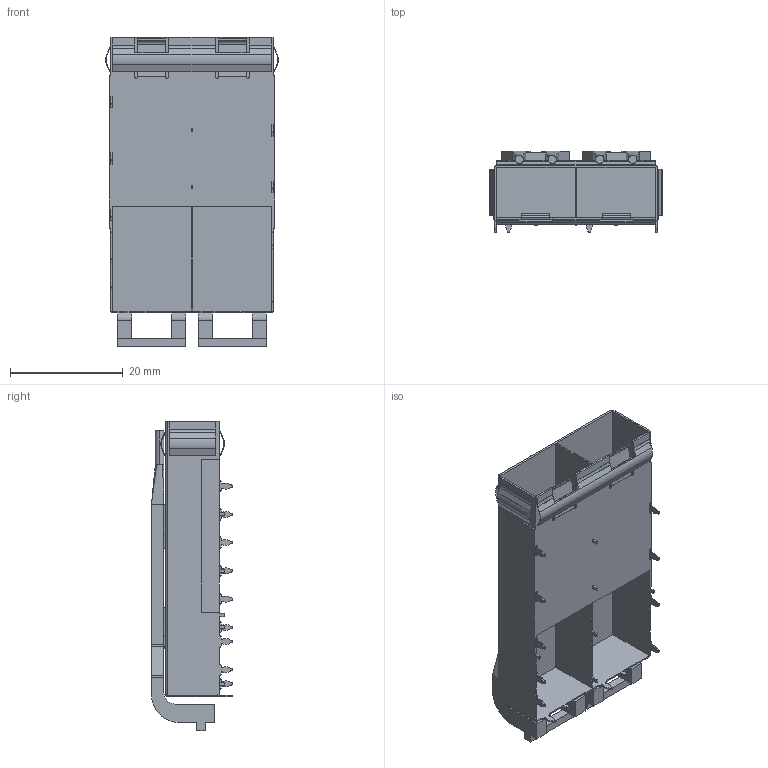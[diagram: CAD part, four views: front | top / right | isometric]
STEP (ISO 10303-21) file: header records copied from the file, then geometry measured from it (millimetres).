
FILE_DESCRIPTION(/* description */ (''),/* implementation_level */ '2;1');
FILE_NAME(/* name */ 'SFP+ 1X2 压接脚 无越压 导光柱10.87.stp',/* time_stamp */ '2026-06-17T10:01:43+08:00',/* author */ (''),/* organization */ (''),/* preprocessor_version */ 'ST-DEVELOPER v16.7',/* originating_system */ 'SIEMENS PLM Software NX 1847',/* authorisation */ '');
FILE_SCHEMA (('AUTOMOTIVE_DESIGN { 1 0 10303 214 3 1 1 1 }'));
Length unit declared in the file: millimetre
Products named in the file (1): Admi28840297r3us
Bounding box: 30.58 x 14.37 x 54.82 mm (x, y, z)
Volume: 2523.5 mm3; surface area: 10647.9 mm2
Topology: 1 solids, 1 shells, 734 faces, 2092 edges, 1354 vertices
Faces by surface type: plane 388, cylinder 296, torus 32, bspline 16, sphere 2
Entity records: 24604 total; most frequent: CARTESIAN_POINT 4999, ORIENTED_EDGE 4180, DIRECTION 4102, EDGE_CURVE 2090, LINE 1436, VECTOR 1436, VERTEX_POINT 1354, AXIS2_PLACEMENT_3D 1333
